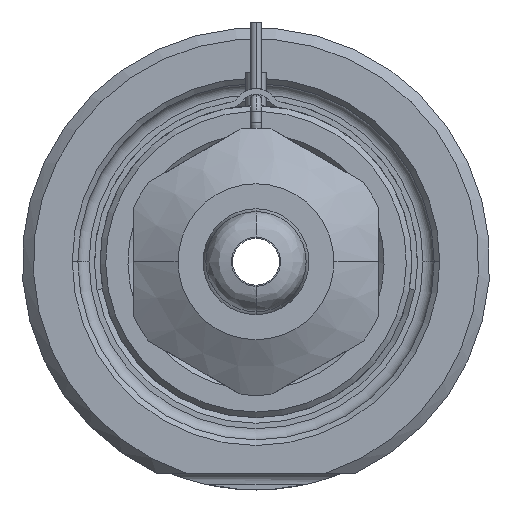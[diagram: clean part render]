
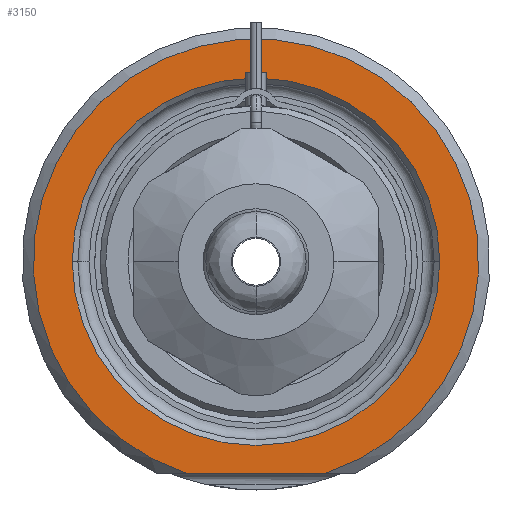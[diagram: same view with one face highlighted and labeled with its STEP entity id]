
A CAD part, front view. The second image highlights one B-rep face of the part: STEP entity #3150.
In plain terms, the highlighted planar face has unit normal (0, -1, 0).
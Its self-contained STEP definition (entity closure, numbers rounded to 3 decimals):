
#1=DIRECTION('',(1.,0.,0.));
#2=VECTOR('',#1,12.49);
#3=CARTESIAN_POINT('',(-6.245,0.,-19.));
#4=LINE('',#3,#2);
#5=CARTESIAN_POINT('',(0.,0.,0.));
#6=DIRECTION('',(0.,1.,0.));
#7=DIRECTION('',(-1.,0.,0.));
#8=AXIS2_PLACEMENT_3D('',#5,#6,#7);
#10=CARTESIAN_POINT('',(0.,0.,0.));
#11=DIRECTION('',(0.,1.,0.));
#12=DIRECTION('',(1.,0.,0.));
#13=AXIS2_PLACEMENT_3D('',#10,#11,#12);
#119=CARTESIAN_POINT('',(0.,0.,0.));
#120=DIRECTION('',(0.,-1.,0.));
#121=DIRECTION('',(0.312,0.,-0.95));
#122=AXIS2_PLACEMENT_3D('',#119,#120,#121);
#2625=CARTESIAN_POINT('',(-16.5,0.,0.));
#2626=CARTESIAN_POINT('',(16.5,0.,0.));
#2627=VERTEX_POINT('',#2625);
#2628=VERTEX_POINT('',#2626);
#2665=CARTESIAN_POINT('',(-6.245,0.,-19.));
#2666=CARTESIAN_POINT('',(6.245,0.,-19.));
#2667=VERTEX_POINT('',#2665);
#2668=VERTEX_POINT('',#2666);
#3133=CARTESIAN_POINT('',(0.,0.,0.));
#3134=DIRECTION('',(0.,-1.,0.));
#3135=DIRECTION('',(1.,0.,0.));
#3136=AXIS2_PLACEMENT_3D('',#3133,#3134,#3135);
#3137=PLANE('',#3136);
#3139=ORIENTED_EDGE('',*,*,#3138,.F.);
#3141=ORIENTED_EDGE('',*,*,#3140,.F.);
#3142=EDGE_LOOP('',(#3139,#3141));
#3143=FACE_OUTER_BOUND('',#3142,.F.);
#3145=ORIENTED_EDGE('',*,*,#3144,.F.);
#3147=ORIENTED_EDGE('',*,*,#3146,.F.);
#3148=EDGE_LOOP('',(#3145,#3147));
#3149=FACE_BOUND('',#3148,.F.);
#3150=ADVANCED_FACE('',(#3143,#3149),#3137,.T.);
#9=CIRCLE('',#8,16.5);
#14=CIRCLE('',#13,16.5);
#123=CIRCLE('',#122,20.);
#3138=EDGE_CURVE('',#2667,#2668,#4,.T.);
#3140=EDGE_CURVE('',#2668,#2667,#123,.T.);
#3144=EDGE_CURVE('',#2627,#2628,#9,.T.);
#3146=EDGE_CURVE('',#2628,#2627,#14,.T.);
